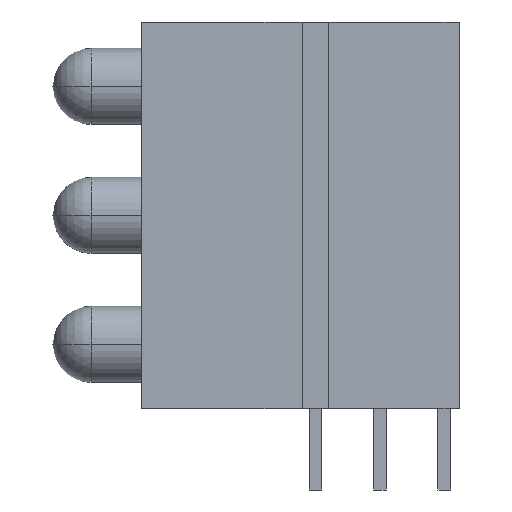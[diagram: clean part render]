
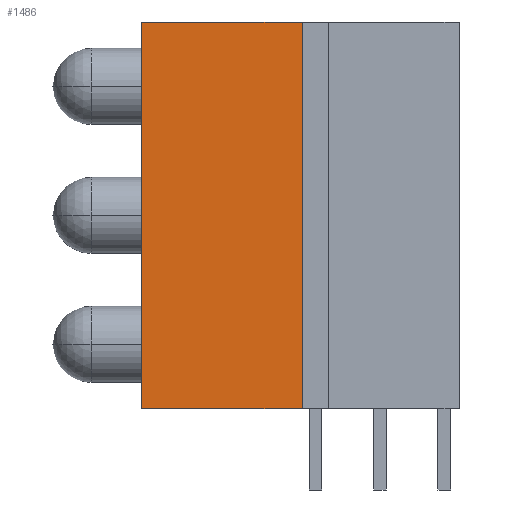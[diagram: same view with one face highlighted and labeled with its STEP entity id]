
A CAD part, left-side view. The second image highlights one B-rep face of the part: STEP entity #1486.
In plain terms, the highlighted planar face has unit normal (-1, 0, 0).
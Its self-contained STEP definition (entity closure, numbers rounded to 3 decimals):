
#904 = VERTEX_POINT('',#905);
#905 = CARTESIAN_POINT('',(-2.475,6.185,0.));
#911 = EDGE_CURVE('',#912,#904,#914,.T.);
#912 = VERTEX_POINT('',#913);
#913 = CARTESIAN_POINT('',(-2.475,12.5,0.));
#914 = LINE('',#915,#916);
#915 = CARTESIAN_POINT('',(-2.475,9.343,0.));
#916 = VECTOR('',#917,1.);
#917 = DIRECTION('',(0.,-1.,0.));
#1388 = VERTEX_POINT('',#1389);
#1389 = CARTESIAN_POINT('',(-2.475,6.185,15.24));
#1395 = EDGE_CURVE('',#1388,#904,#1396,.T.);
#1396 = LINE('',#1397,#1398);
#1397 = CARTESIAN_POINT('',(-2.475,6.185,7.62));
#1398 = VECTOR('',#1399,1.);
#1399 = DIRECTION('',(0.,0.,-1.));
#1469 = VERTEX_POINT('',#1470);
#1470 = CARTESIAN_POINT('',(-2.475,12.5,15.24));
#1476 = EDGE_CURVE('',#1388,#1469,#1477,.T.);
#1477 = LINE('',#1478,#1479);
#1478 = CARTESIAN_POINT('',(-2.475,9.343,15.24));
#1479 = VECTOR('',#1480,1.);
#1480 = DIRECTION('',(0.,1.,0.));
#1486 = ADVANCED_FACE('',(#1487),#1498,.F.);
#1487 = FACE_BOUND('',#1488,.T.);
#1488 = EDGE_LOOP('',(#1489,#1490,#1491,#1497));
#1489 = ORIENTED_EDGE('',*,*,#1395,.F.);
#1490 = ORIENTED_EDGE('',*,*,#1476,.T.);
#1491 = ORIENTED_EDGE('',*,*,#1492,.F.);
#1492 = EDGE_CURVE('',#912,#1469,#1493,.T.);
#1493 = LINE('',#1494,#1495);
#1494 = CARTESIAN_POINT('',(-2.475,12.5,7.62));
#1495 = VECTOR('',#1496,1.);
#1496 = DIRECTION('',(0.,0.,1.));
#1497 = ORIENTED_EDGE('',*,*,#911,.T.);
#1498 = PLANE('',#1499);
#1499 = AXIS2_PLACEMENT_3D('',#1500,#1501,#1502);
#1500 = CARTESIAN_POINT('',(-2.475,0.,0.));
#1501 = DIRECTION('',(1.,0.,0.));
#1502 = DIRECTION('',(-0.,1.,0.));
